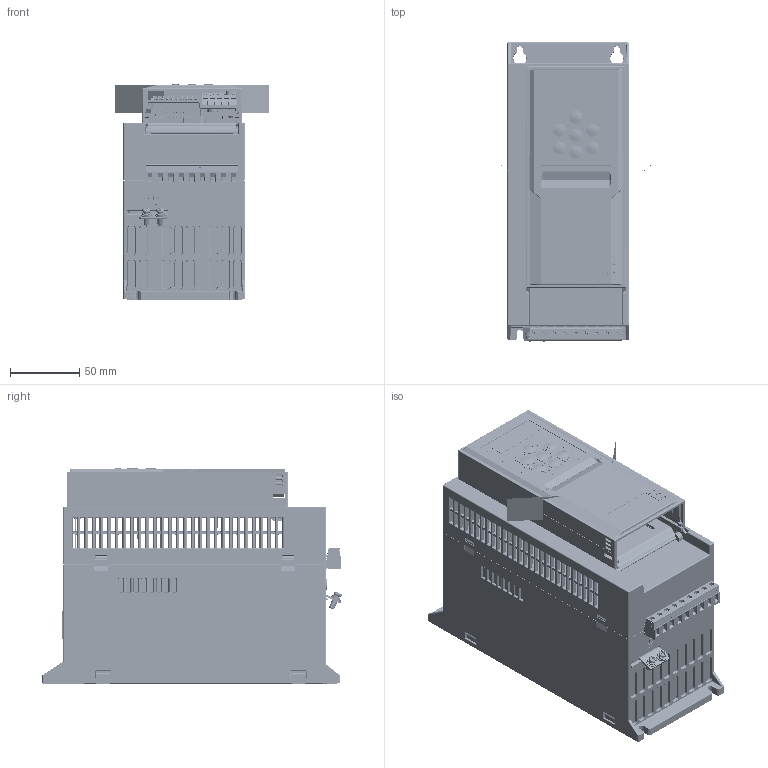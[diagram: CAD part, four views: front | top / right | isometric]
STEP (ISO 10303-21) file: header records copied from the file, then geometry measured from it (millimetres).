
FILE_DESCRIPTION((''),'2;1');
FILE_NAME('D2-DRIVE-380_REV00_ASM','2022-03-02T10:18:39',('wendong.luo'),(''),'CREO PARAMETRIC BY PTC INC, 2018100','CREO PARAMETRIC BY PTC INC, 2018100','');
FILE_SCHEMA(('CONFIG_CONTROL_DESIGN','GEOMETRIC_VALIDATION_PROPERTIES_MIM'));
Products named in the file (20): D2-MECHANICAL-PART_380; E0400004; E0400005; E0400017; M0202003; D2-PU-380_ASM; M0104033; E0100084; E0400023; E0400008; E0400009; E0400001; E0400011; E0100084_ASM; M0203006; M0203025; M0203032; M0104034; CU_NEW_ASM; D2-DRIVE-380_REV00_ASM
Assembly tree (21 placements, depth 4):
  D2-DRIVE-380_REV00_ASM
    D2-PU-380_ASM
      D2-MECHANICAL-PART_380
      E0400004
      E0400005
      E0400017
      M0202003  x2
    CU_NEW_ASM
      M0104033
      E0100084_ASM
        E0100084
        E0400023
        E0400008
        E0400009  x2
        E0400001
        E0400011
      M0203006
      M0203025
      M0203032
      M0104034
Bounding box: 111.51 x 216.19 x 155.65 mm (x, y, z)
Volume: 1546130.7 mm3; surface area: 315999.8 mm2
Topology: 20 solids, 44 shells, 15751 faces, 41659 edges, 26683 vertices
Faces by surface type: plane 8687, cylinder 2826, bspline 1913, extrusion 1630, cone 376, torus 177, sphere 142
Entity records: 698455 total; most frequent: CARTESIAN_POINT 205682, ORIENTED_EDGE 78124, DIRECTION 60150, PRESENTATION_STYLE_ASSIGNMENT 40518, EDGE_CURVE 39070, STYLED_ITEM 38133, CURVE_STYLE 37317, VECTOR 26558
